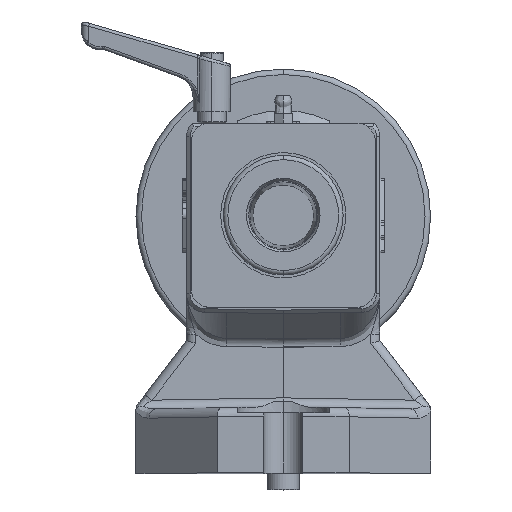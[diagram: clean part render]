
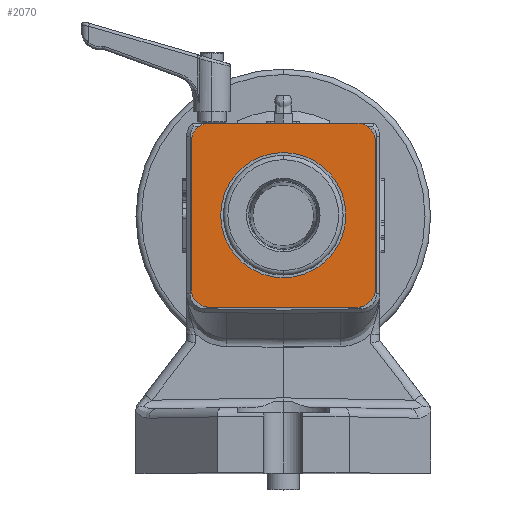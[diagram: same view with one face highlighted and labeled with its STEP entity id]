
A CAD part, top view. The second image highlights one B-rep face of the part: STEP entity #2070.
In plain terms, the highlighted planar face has unit normal (0, 0, 1).
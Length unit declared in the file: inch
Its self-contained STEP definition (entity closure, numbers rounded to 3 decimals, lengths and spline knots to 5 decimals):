
#26 = EDGE_CURVE ( 'Defeatured_0_213+Defeatured_0_218+Defeatured_0_217+Defeatured_0_219', #19529, #34197, #11538, .T. ) ;
#112 = CIRCLE ( 'NONE', #9513, 0.25 ) ;
#193 = LINE ( 'NONE', #33674, #28671 ) ;
#702 = VERTEX_POINT ( 'NONE', #21516 ) ;
#748 = ORIENTED_EDGE ( 'NONE', *, *, #34136, .T. ) ;
#1005 = CARTESIAN_POINT ( 'NONE',  ( -1.25, 1., 3.68 ) ) ;
#1134 = EDGE_CURVE ( 'Defeatured_0_213+Defeatured_0_220+Defeatured_0_219+Defeatured_0_221', #21712, #21653, #10406, .T. ) ;
#1310 = DIRECTION ( 'NONE',  ( 0., 0., 1. ) ) ;
#1356 = CARTESIAN_POINT ( 'NONE',  ( -1.25, 1.25, 3.68 ) ) ;
#1823 = CARTESIAN_POINT ( 'NONE',  ( 0., 0., 3.68 ) ) ;
#2070 = ADVANCED_FACE ( 'Defeatured_0_213', ( #11646, #14679 ), #20377, .F. ) ;
#2085 = ORIENTED_EDGE ( 'NONE', *, *, #7811, .T. ) ;
#2161 = CARTESIAN_POINT ( 'NONE',  ( -1.25, -1., 3.68 ) ) ;
#2601 = EDGE_CURVE ( 'Defeatured_0_213+Defeatured_0_219+Defeatured_0_218+Defeatured_0_220', #34197, #21712, #14898, .T. ) ;
#3082 = VECTOR ( 'NONE', #18223, 39.37008 ) ;
#3167 = EDGE_LOOP ( 'NONE', ( #748, #30942 ) ) ;
#3523 = VERTEX_POINT ( 'NONE', #5783 ) ;
#4161 = CIRCLE ( 'NONE', #24589, 0.85 ) ;
#4570 = DIRECTION ( 'NONE',  ( -1., 0., 0. ) ) ;
#4767 = DIRECTION ( 'NONE',  ( 0., 0., -1. ) ) ;
#4859 = EDGE_CURVE ( 'Defeatured_0_213+Defeatured_0_635+Defeatured_0_635+Defeatured_0_635', #702, #3523, #16919, .T. ) ;
#5783 = CARTESIAN_POINT ( 'NONE',  ( -0.85, 0., 3.68 ) ) ;
#5859 = AXIS2_PLACEMENT_3D ( 'NONE', #15997, #21514, #9838 ) ;
#6292 = EDGE_CURVE ( 'Defeatured_0_213+Defeatured_0_221+Defeatured_0_220+Defeatured_0_214', #21653, #22477, #193, .T. ) ;
#6681 = DIRECTION ( 'NONE',  ( 0., 0., -1. ) ) ;
#7811 = EDGE_CURVE ( 'Defeatured_0_213+Defeatured_0_216+Defeatured_0_215+Defeatured_0_217', #24891, #12662, #112, .T. ) ;
#9513 = AXIS2_PLACEMENT_3D ( 'NONE', #17528, #28690, #4570 ) ;
#9838 = DIRECTION ( 'NONE',  ( -1., 0., 0. ) ) ;
#9918 = ORIENTED_EDGE ( 'NONE', *, *, #6292, .T. ) ;
#10406 = CIRCLE ( 'NONE', #12747, 0.25 ) ;
#10653 = DIRECTION ( 'NONE',  ( -1., 0., 0. ) ) ;
#11538 = CIRCLE ( 'NONE', #12692, 0.25 ) ;
#11628 = VECTOR ( 'NONE', #12209, 39.37008 ) ;
#11646 = FACE_BOUND ( 'NONE', #3167, .T. ) ;
#12094 = ORIENTED_EDGE ( 'NONE', *, *, #2601, .T. ) ;
#12209 = DIRECTION ( 'NONE',  ( -1., 0., 0. ) ) ;
#12343 = DIRECTION ( 'NONE',  ( -1., 0., 0. ) ) ;
#12662 = VERTEX_POINT ( 'NONE', #24474 ) ;
#12692 = AXIS2_PLACEMENT_3D ( 'NONE', #34780, #1310, #12343 ) ;
#12747 = AXIS2_PLACEMENT_3D ( 'NONE', #21247, #13200, #10653 ) ;
#13200 = DIRECTION ( 'NONE',  ( 0., 0., 1. ) ) ;
#13240 = ORIENTED_EDGE ( 'NONE', *, *, #26, .T. ) ;
#13529 = ORIENTED_EDGE ( 'NONE', *, *, #29078, .T. ) ;
#13700 = ORIENTED_EDGE ( 'NONE', *, *, #1134, .T. ) ;
#14515 = DIRECTION ( 'NONE',  ( -1., 0., 0. ) ) ;
#14679 = FACE_OUTER_BOUND ( 'NONE', #34664, .T. ) ;
#14898 = LINE ( 'NONE', #1356, #11628 ) ;
#15183 = CARTESIAN_POINT ( 'NONE',  ( 1., 1.25, 3.68 ) ) ;
#15474 = CARTESIAN_POINT ( 'NONE',  ( -1., 1.25, 3.68 ) ) ;
#15997 = CARTESIAN_POINT ( 'NONE',  ( 0., 0., 3.68 ) ) ;
#16461 = LINE ( 'NONE', #27633, #20229 ) ;
#16919 = CIRCLE ( 'NONE', #5859, 0.85 ) ;
#17528 = CARTESIAN_POINT ( 'NONE',  ( 1., -1., 3.68 ) ) ;
#18223 = DIRECTION ( 'NONE',  ( 1., 0., 0. ) ) ;
#18508 = CARTESIAN_POINT ( 'NONE',  ( -1., -1., 3.68 ) ) ;
#18667 = DIRECTION ( 'NONE',  ( -1., 0., 0. ) ) ;
#19396 = DIRECTION ( 'NONE',  ( 0., 1., 0. ) ) ;
#19529 = VERTEX_POINT ( 'NONE', #22190 ) ;
#20229 = VECTOR ( 'NONE', #19396, 39.37008 ) ;
#20377 = PLANE ( 'NONE',  #28685 ) ;
#21084 = DIRECTION ( 'NONE',  ( 0., 0., 1. ) ) ;
#21247 = CARTESIAN_POINT ( 'NONE',  ( -1., 1., 3.68 ) ) ;
#21264 = EDGE_CURVE ( 'Defeatured_0_213+Defeatured_0_214+Defeatured_0_221+Defeatured_0_215', #22477, #28757, #29339, .T. ) ;
#21514 = DIRECTION ( 'NONE',  ( 0., 0., -1. ) ) ;
#21516 = CARTESIAN_POINT ( 'NONE',  ( 0.85, 0., 3.68 ) ) ;
#21628 = EDGE_CURVE ( 'Defeatured_0_213+Defeatured_0_215+Defeatured_0_214+Defeatured_0_216', #28757, #24891, #26112, .T. ) ;
#21653 = VERTEX_POINT ( 'NONE', #1005 ) ;
#21712 = VERTEX_POINT ( 'NONE', #15474 ) ;
#22190 = CARTESIAN_POINT ( 'NONE',  ( 1.25, 1., 3.68 ) ) ;
#22477 = VERTEX_POINT ( 'NONE', #2161 ) ;
#24474 = CARTESIAN_POINT ( 'NONE',  ( 1.25, -1., 3.68 ) ) ;
#24589 = AXIS2_PLACEMENT_3D ( 'NONE', #1823, #4767, #18667 ) ;
#24891 = VERTEX_POINT ( 'NONE', #29618 ) ;
#26112 = LINE ( 'NONE', #34658, #3082 ) ;
#26336 = ORIENTED_EDGE ( 'NONE', *, *, #21264, .T. ) ;
#27094 = DIRECTION ( 'NONE',  ( -1., 0., 0. ) ) ;
#27633 = CARTESIAN_POINT ( 'NONE',  ( 1.25, -1.25, 3.68 ) ) ;
#28195 = DIRECTION ( 'NONE',  ( 0., -1., 0. ) ) ;
#28671 = VECTOR ( 'NONE', #28195, 39.37008 ) ;
#28685 = AXIS2_PLACEMENT_3D ( 'NONE', #31491, #6681, #14515 ) ;
#28690 = DIRECTION ( 'NONE',  ( 0., 0., 1. ) ) ;
#28757 = VERTEX_POINT ( 'NONE', #30565 ) ;
#29078 = EDGE_CURVE ( 'Defeatured_0_213+Defeatured_0_217+Defeatured_0_216+Defeatured_0_218', #12662, #19529, #16461, .T. ) ;
#29339 = CIRCLE ( 'NONE', #33986, 0.25 ) ;
#29618 = CARTESIAN_POINT ( 'NONE',  ( 1., -1.25, 3.68 ) ) ;
#29983 = ORIENTED_EDGE ( 'NONE', *, *, #21628, .T. ) ;
#30565 = CARTESIAN_POINT ( 'NONE',  ( -1., -1.25, 3.68 ) ) ;
#30942 = ORIENTED_EDGE ( 'NONE', *, *, #4859, .T. ) ;
#31491 = CARTESIAN_POINT ( 'NONE',  ( -1.25, 1.25, 3.68 ) ) ;
#33674 = CARTESIAN_POINT ( 'NONE',  ( -1.25, -1.25, 3.68 ) ) ;
#33986 = AXIS2_PLACEMENT_3D ( 'NONE', #18508, #21084, #27094 ) ;
#34136 = EDGE_CURVE ( 'Defeatured_0_213+Defeatured_0_635+Defeatured_0_635+Defeatured_0_635', #3523, #702, #4161, .T. ) ;
#34197 = VERTEX_POINT ( 'NONE', #15183 ) ;
#34658 = CARTESIAN_POINT ( 'NONE',  ( -1.25, -1.25, 3.68 ) ) ;
#34664 = EDGE_LOOP ( 'NONE', ( #12094, #13700, #9918, #26336, #29983, #2085, #13529, #13240 ) ) ;
#34780 = CARTESIAN_POINT ( 'NONE',  ( 1., 1., 3.68 ) ) ;
